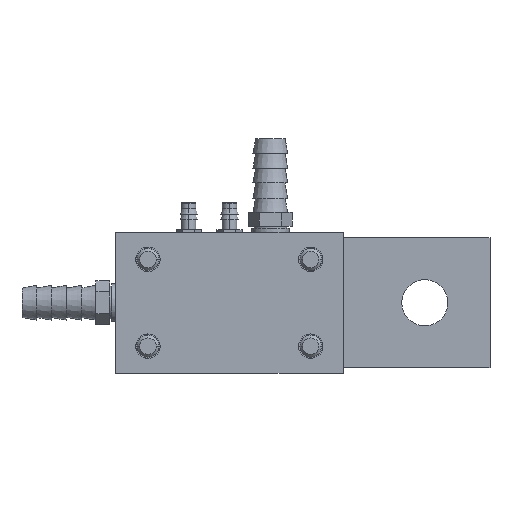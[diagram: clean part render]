
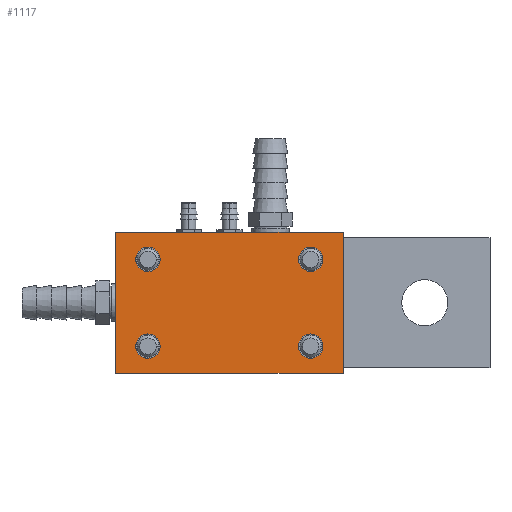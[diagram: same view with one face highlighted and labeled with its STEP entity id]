
A CAD part, left-side view. The second image highlights one B-rep face of the part: STEP entity #1117.
In plain terms, the highlighted planar face has unit normal (-1, 0, 0).
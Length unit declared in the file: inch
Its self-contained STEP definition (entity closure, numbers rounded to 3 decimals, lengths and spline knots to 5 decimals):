
#852=CARTESIAN_POINT('',(-3.8125,-0.935,-0.5));
#853=DIRECTION('',(1.,0.,0.));
#854=DIRECTION('',(0.,-1.,0.));
#855=AXIS2_PLACEMENT_3D('',#852,#853,#854);
#857=CARTESIAN_POINT('',(-3.8125,-0.935,-0.5));
#858=DIRECTION('',(1.,0.,0.));
#859=DIRECTION('',(0.,1.,0.));
#860=AXIS2_PLACEMENT_3D('',#857,#858,#859);
#862=CARTESIAN_POINT('',(-3.8125,-0.935,0.5));
#863=DIRECTION('',(1.,0.,0.));
#864=DIRECTION('',(0.,-1.,0.));
#865=AXIS2_PLACEMENT_3D('',#862,#863,#864);
#867=CARTESIAN_POINT('',(-3.8125,-0.935,0.5));
#868=DIRECTION('',(1.,0.,0.));
#869=DIRECTION('',(0.,1.,0.));
#870=AXIS2_PLACEMENT_3D('',#867,#868,#869);
#872=CARTESIAN_POINT('',(-3.8125,0.94,-0.5));
#873=DIRECTION('',(1.,0.,0.));
#874=DIRECTION('',(0.,-1.,0.));
#875=AXIS2_PLACEMENT_3D('',#872,#873,#874);
#877=CARTESIAN_POINT('',(-3.8125,0.94,-0.5));
#878=DIRECTION('',(1.,0.,0.));
#879=DIRECTION('',(0.,1.,0.));
#880=AXIS2_PLACEMENT_3D('',#877,#878,#879);
#882=CARTESIAN_POINT('',(-3.8125,0.94,0.5));
#883=DIRECTION('',(1.,0.,0.));
#884=DIRECTION('',(0.,-1.,0.));
#885=AXIS2_PLACEMENT_3D('',#882,#883,#884);
#887=CARTESIAN_POINT('',(-3.8125,0.94,0.5));
#888=DIRECTION('',(1.,0.,0.));
#889=DIRECTION('',(0.,1.,0.));
#890=AXIS2_PLACEMENT_3D('',#887,#888,#889);
#920=DIRECTION('',(0.,-1.,0.));
#921=VECTOR('',#920,2.625);
#922=CARTESIAN_POINT('',(-3.8125,1.315,0.8125));
#923=LINE('',#922,#921);
#928=DIRECTION('',(0.,0.,-1.));
#929=VECTOR('',#928,1.625);
#930=CARTESIAN_POINT('',(-3.8125,-1.31,0.8125));
#931=LINE('',#930,#929);
#940=DIRECTION('',(0.,1.,0.));
#941=VECTOR('',#940,2.625);
#942=CARTESIAN_POINT('',(-3.8125,-1.31,-0.8125));
#943=LINE('',#942,#941);
#956=DIRECTION('',(0.,0.,1.));
#957=VECTOR('',#956,1.625);
#958=CARTESIAN_POINT('',(-3.8125,1.315,-0.8125));
#959=LINE('',#958,#957);
#970=CARTESIAN_POINT('',(-3.8125,1.315,-0.8125));
#971=VERTEX_POINT('',#970);
#972=CARTESIAN_POINT('',(-3.8125,1.315,0.8125));
#973=VERTEX_POINT('',#972);
#976=CARTESIAN_POINT('',(-3.8125,-1.31,-0.8125));
#977=VERTEX_POINT('',#976);
#978=CARTESIAN_POINT('',(-3.8125,-1.31,0.8125));
#979=VERTEX_POINT('',#978);
#980=CARTESIAN_POINT('',(-3.8125,-1.07563,-0.5));
#982=VERTEX_POINT('',#980);
#984=CARTESIAN_POINT('',(-3.8125,-0.79438,-0.5));
#986=VERTEX_POINT('',#984);
#988=CARTESIAN_POINT('',(-3.8125,-1.07563,0.5));
#990=VERTEX_POINT('',#988);
#992=CARTESIAN_POINT('',(-3.8125,-0.79438,0.5));
#994=VERTEX_POINT('',#992);
#996=CARTESIAN_POINT('',(-3.8125,0.79938,-0.5));
#998=VERTEX_POINT('',#996);
#1000=CARTESIAN_POINT('',(-3.8125,1.08063,-0.5));
#1002=VERTEX_POINT('',#1000);
#1004=CARTESIAN_POINT('',(-3.8125,0.79938,0.5));
#1006=VERTEX_POINT('',#1004);
#1008=CARTESIAN_POINT('',(-3.8125,1.08063,0.5));
#1010=VERTEX_POINT('',#1008);
#1080=CARTESIAN_POINT('',(-3.8125,0.0025,0.));
#1081=DIRECTION('',(-1.,0.,0.));
#1082=DIRECTION('',(0.,1.,0.));
#1083=AXIS2_PLACEMENT_3D('',#1080,#1081,#1082);
#1084=PLANE('',#1083);
#1086=ORIENTED_EDGE('',*,*,#1085,.T.);
#1088=ORIENTED_EDGE('',*,*,#1087,.T.);
#1090=ORIENTED_EDGE('',*,*,#1089,.T.);
#1092=ORIENTED_EDGE('',*,*,#1091,.T.);
#1093=EDGE_LOOP('',(#1086,#1088,#1090,#1092));
#1094=FACE_OUTER_BOUND('',#1093,.F.);
#1096=ORIENTED_EDGE('',*,*,#1095,.F.);
#1098=ORIENTED_EDGE('',*,*,#1097,.F.);
#1099=EDGE_LOOP('',(#1096,#1098));
#1100=FACE_BOUND('',#1099,.F.);
#1102=ORIENTED_EDGE('',*,*,#1101,.F.);
#1104=ORIENTED_EDGE('',*,*,#1103,.F.);
#1105=EDGE_LOOP('',(#1102,#1104));
#1106=FACE_BOUND('',#1105,.F.);
#1108=ORIENTED_EDGE('',*,*,#1107,.F.);
#1110=ORIENTED_EDGE('',*,*,#1109,.F.);
#1111=EDGE_LOOP('',(#1108,#1110));
#1112=FACE_BOUND('',#1111,.F.);
#1113=ORIENTED_EDGE('',*,*,#1021,.F.);
#1114=ORIENTED_EDGE('',*,*,#1074,.F.);
#1115=EDGE_LOOP('',(#1113,#1114));
#1116=FACE_BOUND('',#1115,.F.);
#856=CIRCLE('',#855,0.14063);
#861=CIRCLE('',#860,0.14063);
#866=CIRCLE('',#865,0.14063);
#871=CIRCLE('',#870,0.14063);
#876=CIRCLE('',#875,0.14063);
#881=CIRCLE('',#880,0.14063);
#886=CIRCLE('',#885,0.14063);
#891=CIRCLE('',#890,0.14063);
#1021=EDGE_CURVE('',#982,#986,#856,.T.);
#1074=EDGE_CURVE('',#986,#982,#861,.T.);
#1085=EDGE_CURVE('',#973,#979,#923,.T.);
#1087=EDGE_CURVE('',#979,#977,#931,.T.);
#1089=EDGE_CURVE('',#977,#971,#943,.T.);
#1091=EDGE_CURVE('',#971,#973,#959,.T.);
#1095=EDGE_CURVE('',#990,#994,#866,.T.);
#1097=EDGE_CURVE('',#994,#990,#871,.T.);
#1101=EDGE_CURVE('',#998,#1002,#876,.T.);
#1103=EDGE_CURVE('',#1002,#998,#881,.T.);
#1107=EDGE_CURVE('',#1006,#1010,#886,.T.);
#1109=EDGE_CURVE('',#1010,#1006,#891,.T.);
#1117=ADVANCED_FACE('',(#1094,#1100,#1106,#1112,#1116),#1084,.T.);
